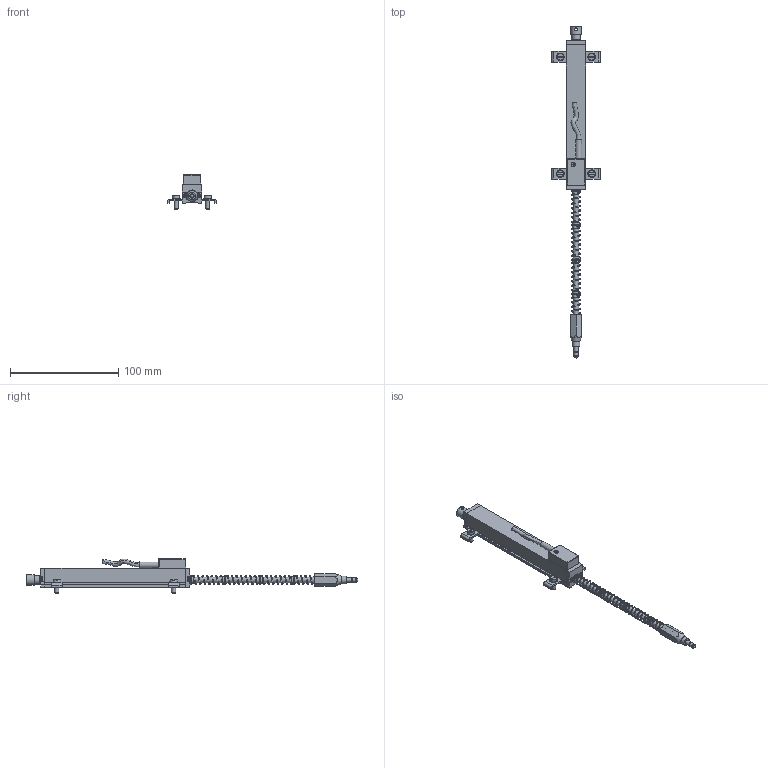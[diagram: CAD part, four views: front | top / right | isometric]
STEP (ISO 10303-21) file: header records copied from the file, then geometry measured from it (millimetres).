
FILE_DESCRIPTION( ( 'Unknown' ), '1' );
FILE_NAME( 'P:/Fertigung_TTS/2_TTS/1_CAD-Daten/4_Handelsware/3_Linearpotentiometer/LRW2_LRW3/4_Step/LRW2-F-100-S.stp', 'Unknown', ( 'WayCon' ), ( 'WayCon Positionsmesstechnik' ), 'PSStep 17.0.49', 'Unknown', ' ' );
FILE_SCHEMA( ( 'AUTOMOTIVE_DESIGN { 1 0 10303 214 1 1 1 1 }' ) );
Length unit declared in the file: millimetre
Products named in the file (40): Molla PY compressa MIM401X_Posizione Lavoro; MIM600X; 1; 2; 3; 4; 5; MIM828X_ISO 7045 - M2.5 x 8 - Z --- 8S; PMI-SLIM cavoX; BUS023X; TES053X; BUS015X; TES045X; PRE040X; BUS022X; TAS000X_Assemblato; MIM797X_ISO 7046-1 - M2 x 10 - Z --- 10S; STA029X; MIM510X_DIN 6905-3.6-FSt; MIM892X_ISO 1207 - M4 x 10 --- 10S; CUS046X; 6; PUN001X
Bounding box: 45 x 306.99 x 31.7 mm (x, y, z)
Surface area: 25426.1 mm2
Topology: 5 solids, 413 shells, 421 faces, 1940 edges, 1858 vertices
Faces by surface type: plane 258, cylinder 78, cone 50, torus 20, sphere 9, bspline 6
Full cylindrical faces by diameter (mm): 2.5 x2, 3.2 x1, 3.8 x3, 4 x10, 4.2 x1, 5 x5, 6.3 x7, 7 x2, 7.8 x4, 8 x1, 8.5 x1, 10 x1
Entity records: 27848 total; most frequent: CARTESIAN_POINT 9729, DIRECTION 3158, ORIENTED_EDGE 1812, VERTEX_POINT 1810, EDGE_CURVE 1804, AXIS2_PLACEMENT_3D 1145, LINE 868, VECTOR 868
